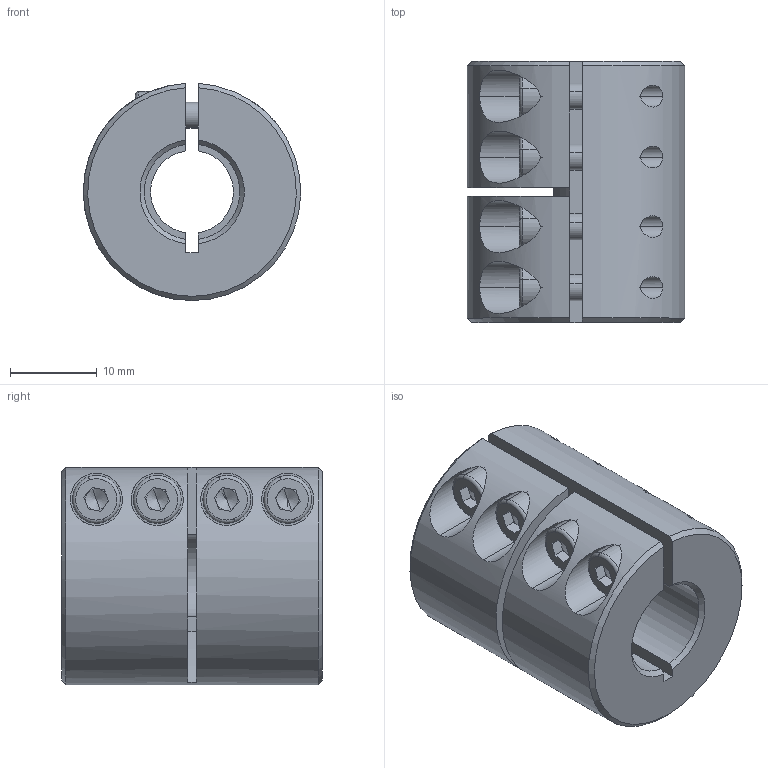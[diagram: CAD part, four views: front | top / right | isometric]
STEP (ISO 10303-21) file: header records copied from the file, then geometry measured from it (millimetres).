
FILE_DESCRIPTION (( 'STEP AP214' ), '1' );
FILE_NAME ('LL-B-D25L30-9.525-11½¨Ä£.STEP', '2022-07-21T03:18:29', ( '' ), ( '' ), 'SwSTEP 2.0', 'SolidWorks 2022', '' );
FILE_SCHEMA (( 'AUTOMOTIVE_DESIGN' ));
Length unit declared in the file: millimetre
Products named in the file (1): LL-B-D25L30-9.525-11膘耀
Bounding box: 24.99 x 30 x 24.98 mm (x, y, z)
Volume: 11209.9 mm3; surface area: 5900.8 mm2
Topology: 1 solids, 1 shells, 164 faces, 418 edges, 264 vertices
Faces by surface type: plane 83, cylinder 58, cone 15, torus 8
Entity records: 5402 total; most frequent: CARTESIAN_POINT 1363, DIRECTION 862, ORIENTED_EDGE 820, EDGE_CURVE 410, AXIS2_PLACEMENT_3D 331, VERTEX_POINT 264, LINE 200, VECTOR 200
